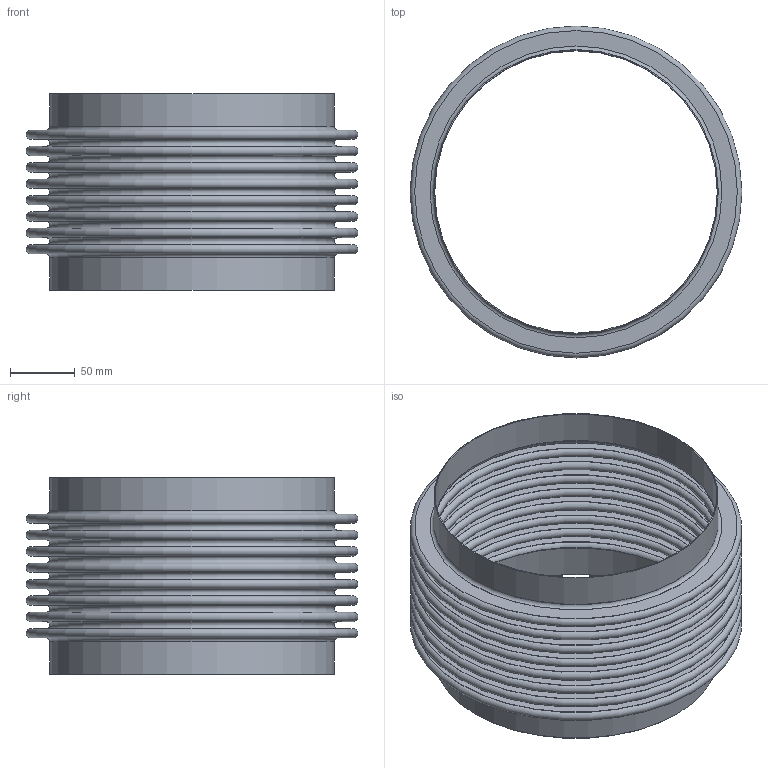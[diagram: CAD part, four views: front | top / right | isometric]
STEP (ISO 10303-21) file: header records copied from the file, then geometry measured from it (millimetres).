
FILE_DESCRIPTION(/* description */ (''),/* implementation_level */ '2;1');
FILE_NAME(/* name */ 'US-8-8-85S.stp',/* time_stamp */ '2026-07-21T11:11:50-05:00',/* author */ ('linda'),/* organization */ (''),/* preprocessor_version */ 'ST-DEVELOPER v20.1',/* originating_system */ 'Autodesk Inventor 2026',/* authorisation */ '');
FILE_SCHEMA (('AUTOMOTIVE_DESIGN { 1 0 10303 214 3 1 1 }'));
Length unit declared in the file: inch
Products named in the file (1): Part3
Bounding box: 257.18 x 257.18 x 152.4 mm (x, y, z)
Volume: 226592.9 mm3; surface area: 597889.7 mm2
Topology: 3 solids, 3 shells, 76 faces, 114 edges, 77 vertices
Faces by surface type: plane 38, torus 34, cylinder 4
Full cylindrical faces by diameter (mm): 219.075 x2, 220.599 x2
Entity records: 1899 total; most frequent: DIRECTION 378, CARTESIAN_POINT 268, ORIENTED_EDGE 228, AXIS2_PLACEMENT_3D 187, EDGE_LOOP 114, EDGE_CURVE 114, CIRCLE 110, STYLED_ITEM 79
